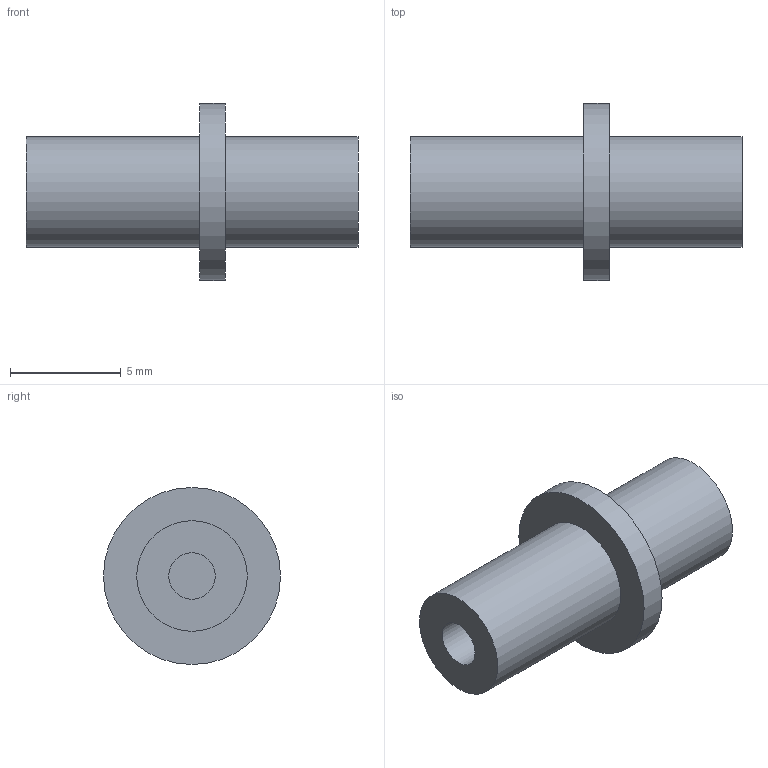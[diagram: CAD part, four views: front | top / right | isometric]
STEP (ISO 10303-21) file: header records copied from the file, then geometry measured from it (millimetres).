
FILE_DESCRIPTION(('Open CASCADE Model'),'2;1');
FILE_NAME('B3_R12_guide_rod_2_with_stop','2026-09-28T18:24:07',('Author' ),('Open CASCADE'),'Open CASCADE STEP processor 7.9','build123d', 'Unknown');
FILE_SCHEMA(('AUTOMOTIVE_DESIGN { 1 0 10303 214 1 1 1 1 }'));
Length unit declared in the file: millimetre
Products named in the file (1): B3_R12_guide_rod_2_with_stop
Bounding box: 15 x 8 x 8 mm (x, y, z)
Volume: 302 mm3; surface area: 399.8 mm2
Topology: 1 solids, 1 shells, 11 faces, 15 edges, 10 vertices
Faces by surface type: plane 6, cylinder 5
Full cylindrical faces by diameter (mm): 2.1 x2, 5 x2, 8 x1
Entity records: 455 total; most frequent: DIRECTION 79, CARTESIAN_POINT 67, ORIENTED_EDGE 30, PCURVE 30, DEFINITIONAL_REPRESENTATION 30, LINE 25, VECTOR 25, AXIS2_PLACEMENT_3D 22
